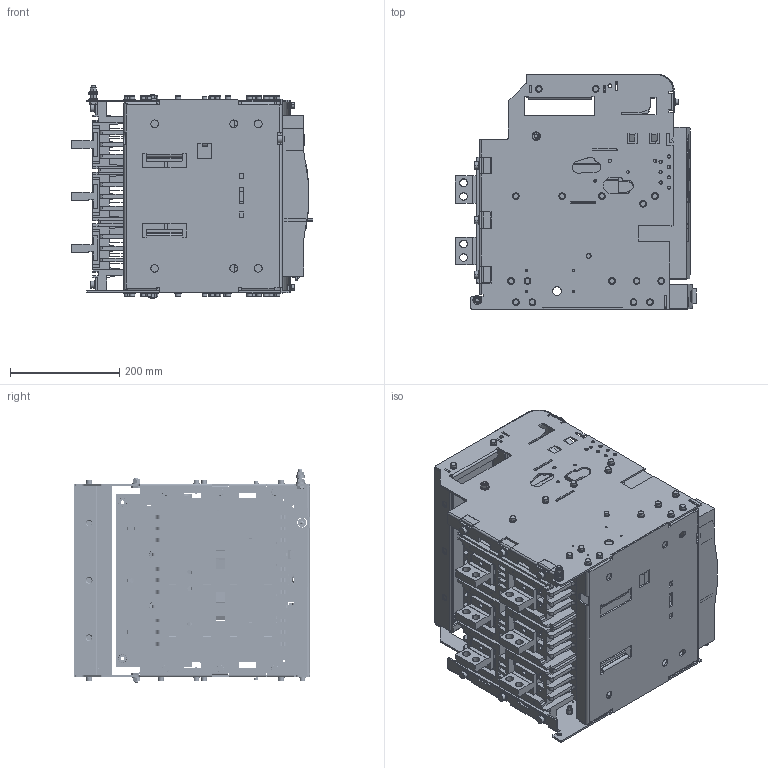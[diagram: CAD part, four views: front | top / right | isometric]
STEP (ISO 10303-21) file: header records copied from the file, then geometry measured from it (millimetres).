
FILE_DESCRIPTION (( 'STEP AP214' ), '1' );
FILE_NAME ('OptiMat A-S2-B-630-1600-3P-D-V.STEP', '2023-03-31T08:30:23', ( '' ), ( '' ), 'SwSTEP 2.0', 'SolidWorks 2018', '' );
FILE_SCHEMA (( 'AUTOMOTIVE_DESIGN' ));
Length unit declared in the file: millimetre
Products named in the file (1): OptiMat A-S2-B-630-1600-3P-D-V
Bounding box: 442 x 431.5 x 390.6 mm (x, y, z)
Surface area: 2422339.5 mm2 (no closed solid volume)
Topology: 0 solids, 259 shells, 2725 faces, 12195 edges, 9456 vertices
Faces by surface type: plane 1558, cylinder 841, torus 144, cone 119, bspline 49, sphere 14
Entity records: 162511 total; most frequent: CARTESIAN_POINT 35125, DIRECTION 20064, ORIENTED_EDGE 17564, EDGE_CURVE 12171, VERTEX_POINT 9446, LINE 7498, VECTOR 7498, AXIS2_PLACEMENT_3D 6283
